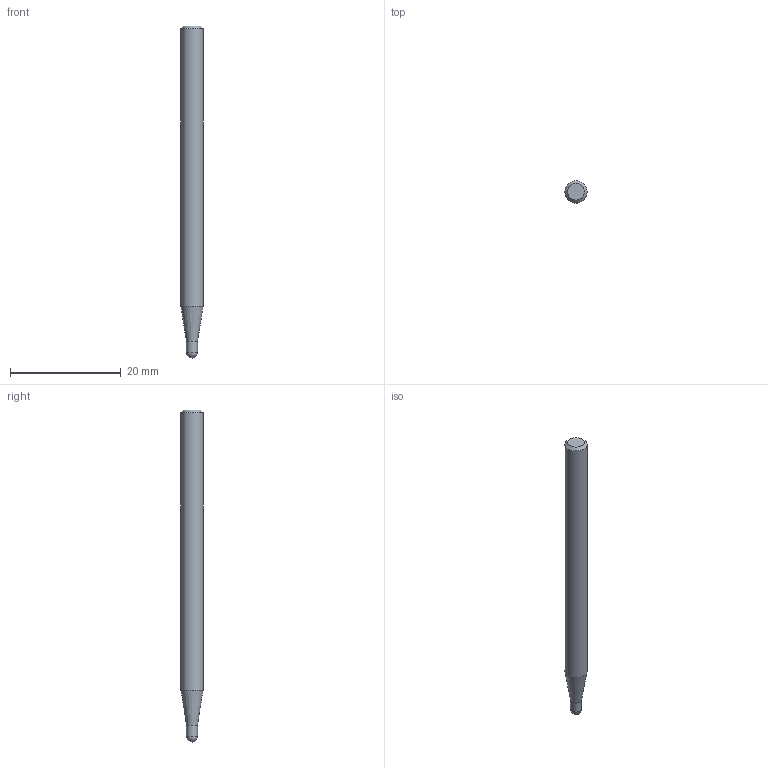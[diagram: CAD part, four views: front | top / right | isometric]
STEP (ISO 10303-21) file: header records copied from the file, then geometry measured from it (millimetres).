
FILE_DESCRIPTION((''),'2;1');
FILE_NAME('C:\Users\nsx150\AppData\Local\Temp\Mastercam 2021\J4S5TCIUH2\TEMP.step','2022-01-25T17:53:50',(''),(''),'STEP Write','Mastercam 2021 ... CNC Software, Inc.','');
FILE_SCHEMA(('AUTOMOTIVE_DESIGN'));
Length unit declared in the file: millimetre
Products named in the file (1): None
Bounding box: 4 x 4 x 60 mm (x, y, z)
Volume: 690.2 mm3; surface area: 730.9 mm2
Topology: 2 solids, 2 shells, 8 faces, 12 edges, 7 vertices
Faces by surface type: plane 3, cylinder 2, cone 2, sphere 1
Full cylindrical faces by diameter (mm): 2 x1, 4 x1
Entity records: 190 total; most frequent: DIRECTION 32, CARTESIAN_POINT 22, AXIS2_PLACEMENT_3D 16, ORIENTED_EDGE 12, EDGE_LOOP 12, STYLED_ITEM 11, ADVANCED_FACE 8, VERTEX_POINT 6
